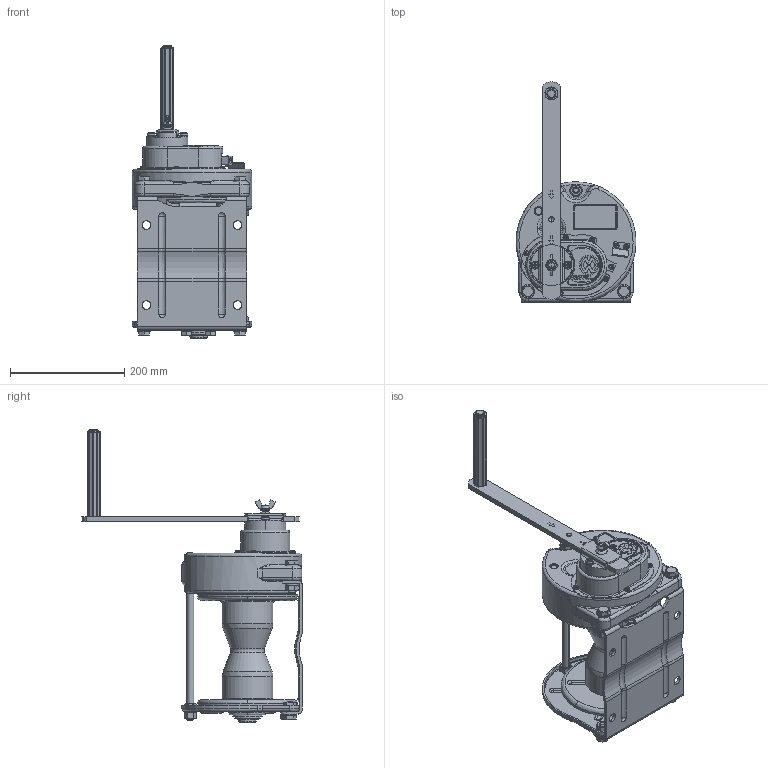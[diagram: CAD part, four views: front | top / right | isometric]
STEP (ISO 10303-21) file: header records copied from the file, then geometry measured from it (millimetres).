
FILE_DESCRIPTION( (''), '2;1');
FILE_NAME ('MC-10.stp','2023-12-25T11:52:24',(''),(''),'spGate 19.8.2 (****-****-****-****)','','');
FILE_SCHEMA (('AUTOMOTIVE_DESIGN'));
Length unit declared in the file: millimetre
Products named in the file (3): Assembly; MC-10-prt0; MC-10-prt1
Assembly tree (2 placements, depth 2):
  Assembly
    MC-10-prt0
    MC-10-prt1
Bounding box: 209.96 x 385.43 x 513.1 mm (x, y, z)
Volume: 4515852 mm3; surface area: 621737.2 mm2
Topology: 2 solids, 2 shells, 2519 faces, 6469 edges, 4057 vertices
Faces by surface type: plane 1228, cylinder 817, bspline 416, sphere 58
Entity records: 137649 total; most frequent: CARTESIAN_POINT 26510, ORIENTED_EDGE 12834, DIRECTION 12303, COLOUR_RGB 8938, PRESENTATION_STYLE_ASSIGNMENT 8938, STYLED_ITEM 8938, EDGE_CURVE 6417, DRAUGHTING_PRE_DEFINED_CURVE_FONT 6417
